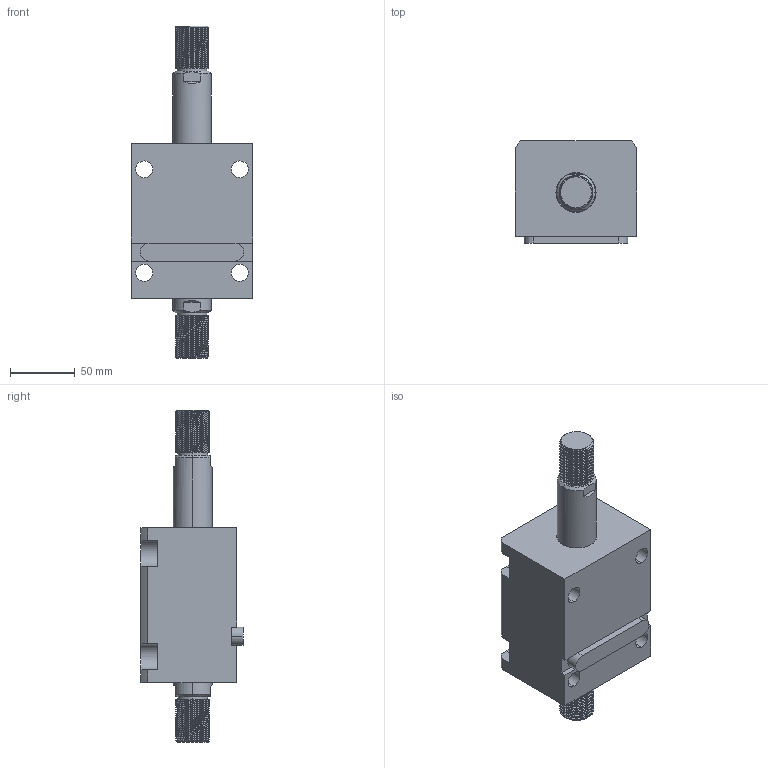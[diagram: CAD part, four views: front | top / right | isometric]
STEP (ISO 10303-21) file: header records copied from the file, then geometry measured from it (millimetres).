
FILE_DESCRIPTION (( 'STEP AP203' ), '1' );
FILE_NAME ('CHTB-LW50-45W.STEP', '2018-05-18T07:47:45', ( '' ), ( '' ), 'SwSTEP 2.0', 'SolidWorks 2015', '' );
FILE_SCHEMA (( 'CONFIG_CONTROL_DESIGN' ));
Length unit declared in the file: millimetre
Products named in the file (4): 掛极LW50-45W; 活塞杆LW50-45W; CHTB-LW50-45W; CHTM-SDMA50QG
Assembly tree (3 placements, depth 2):
  CHTB-LW50-45W
    掛极LW50-45W
    活塞杆LW50-45W
    CHTM-SDMA50QG
Bounding box: 94 x 79 x 257 mm (x, y, z)
Volume: 804784.1 mm3; surface area: 130546.2 mm2
Topology: 3 solids, 3 shells, 310 faces, 854 edges, 568 vertices
Faces by surface type: cylinder 186, plane 63, cone 27, bspline 18, torus 16
Entity records: 19510 total; most frequent: CARTESIAN_POINT 11940, ORIENTED_EDGE 1700, DIRECTION 1310, EDGE_CURVE 850, VERTEX_POINT 568, AXIS2_PLACEMENT_3D 503, EDGE_LOOP 348, ADVANCED_FACE 310
